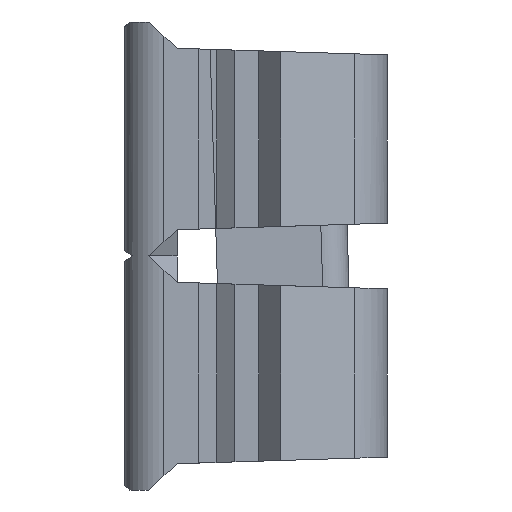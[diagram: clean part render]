
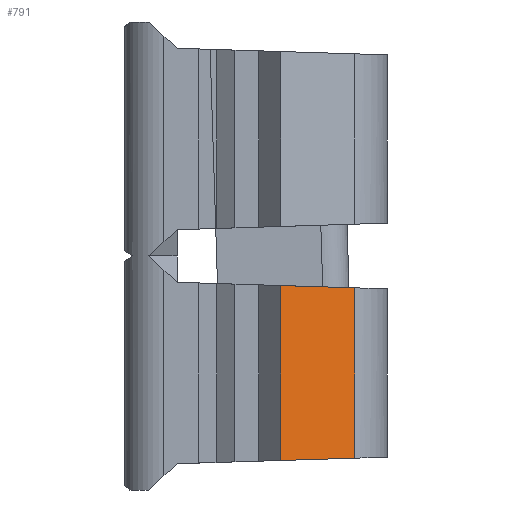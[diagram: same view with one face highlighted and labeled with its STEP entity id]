
A CAD part, left-side view. The second image highlights one B-rep face of the part: STEP entity #791.
In plain terms, the highlighted planar face has unit normal (-0.864, -0.503, 0).
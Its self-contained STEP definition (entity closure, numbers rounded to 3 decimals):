
#93 = ORIENTED_EDGE ( 'NONE', *, *, #4028, .T. ) ;
#216 = VECTOR ( 'NONE', #3651, 1000. ) ;
#318 = DIRECTION ( 'NONE',  ( 0., 0., -1. ) ) ;
#414 = EDGE_CURVE ( 'NONE', #1801, #2865, #2999, .T. ) ;
#599 = DIRECTION ( 'NONE',  ( -0.503, 0.864, -0.027 ) ) ;
#720 = EDGE_CURVE ( 'NONE', #2865, #4060, #889, .T. ) ;
#789 = VECTOR ( 'NONE', #599, 1000. ) ;
#791 = ADVANCED_FACE ( 'NONE', ( #3137 ), #1055, .F. ) ;
#883 = CARTESIAN_POINT ( 'NONE',  ( -22.361, -6.757, -1. ) ) ;
#889 = LINE ( 'NONE', #2239, #789 ) ;
#976 = CARTESIAN_POINT ( 'NONE',  ( -24.002, -3.936, -1.123 ) ) ;
#1055 = PLANE ( 'NONE',  #2841 ) ;
#1175 = ORIENTED_EDGE ( 'NONE', *, *, #1339, .F. ) ;
#1206 = LINE ( 'NONE', #976, #216 ) ;
#1339 = EDGE_CURVE ( 'NONE', #3840, #1801, #1206, .T. ) ;
#1472 = CARTESIAN_POINT ( 'NONE',  ( -24., -3.939, -1.123 ) ) ;
#1724 = DIRECTION ( 'NONE',  ( 0.864, 0.503, 0. ) ) ;
#1766 = LINE ( 'NONE', #2988, #2658 ) ;
#1801 = VERTEX_POINT ( 'NONE', #2410 ) ;
#1970 = ORIENTED_EDGE ( 'NONE', *, *, #720, .F. ) ;
#2098 = VECTOR ( 'NONE', #3219, 1000. ) ;
#2224 = EDGE_LOOP ( 'NONE', ( #1175, #93, #1970, #3328 ) ) ;
#2239 = CARTESIAN_POINT ( 'NONE',  ( -23.908, -4.097, -7.772 ) ) ;
#2313 = CARTESIAN_POINT ( 'NONE',  ( -22.361, -6.757, -7.689 ) ) ;
#2410 = CARTESIAN_POINT ( 'NONE',  ( -22.361, -6.757, -1.211 ) ) ;
#2658 = VECTOR ( 'NONE', #318, 1000. ) ;
#2661 = CARTESIAN_POINT ( 'NONE',  ( -24., -3.939, -7.777 ) ) ;
#2841 = AXIS2_PLACEMENT_3D ( 'NONE', #3728, #1724, #4072 ) ;
#2865 = VERTEX_POINT ( 'NONE', #2313 ) ;
#2988 = CARTESIAN_POINT ( 'NONE',  ( -24., -3.939, -1. ) ) ;
#2999 = LINE ( 'NONE', #883, #2098 ) ;
#3137 = FACE_OUTER_BOUND ( 'NONE', #2224, .T. ) ;
#3219 = DIRECTION ( 'NONE',  ( 0., 0., -1. ) ) ;
#3328 = ORIENTED_EDGE ( 'NONE', *, *, #414, .F. ) ;
#3651 = DIRECTION ( 'NONE',  ( 0.503, -0.864, -0.027 ) ) ;
#3728 = CARTESIAN_POINT ( 'NONE',  ( -24., -3.939, -1. ) ) ;
#3840 = VERTEX_POINT ( 'NONE', #1472 ) ;
#4028 = EDGE_CURVE ( 'NONE', #3840, #4060, #1766, .T. ) ;
#4060 = VERTEX_POINT ( 'NONE', #2661 ) ;
#4072 = DIRECTION ( 'NONE',  ( -0.503, 0.864, 0. ) ) ;
